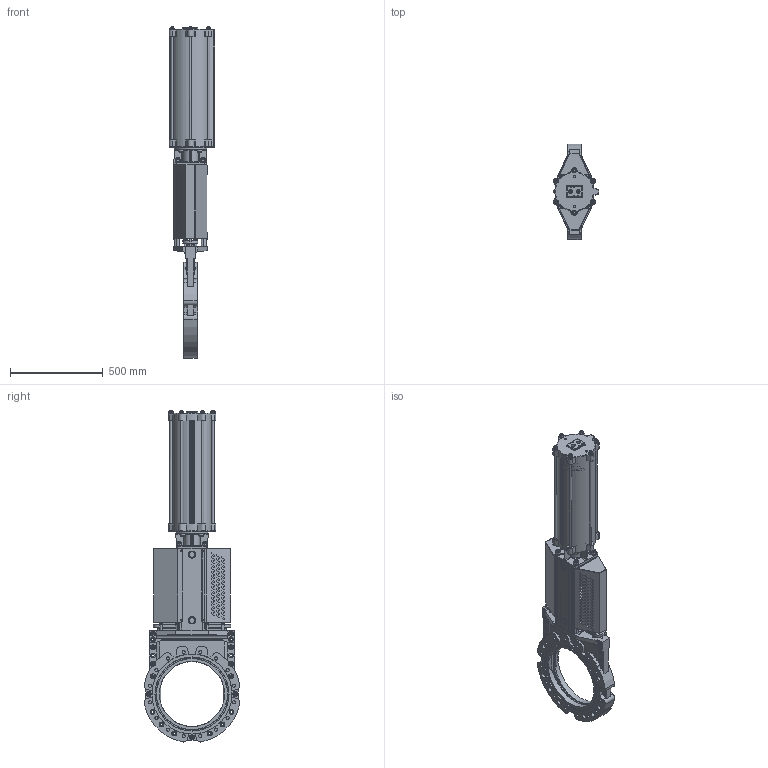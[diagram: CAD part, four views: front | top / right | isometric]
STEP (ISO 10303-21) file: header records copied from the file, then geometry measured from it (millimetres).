
FILE_DESCRIPTION(/* description */ (''),/* implementation_level */ '2;1');
FILE_NAME(/* name */ 'F:\Emir\3D-block special\WB\WB14\WB14-DN350-PN10-FRSC200-450.stp',/* time_stamp */ '2018-01-08T15:40:50+01:00',/* author */ ('emimus'),/* organization */ (''),/* preprocessor_version */ 'ST-DEVELOPER v16.5',/* originating_system */ 'Autodesk Inventor 2017',/* authorisation */ '');
FILE_SCHEMA (('CONFIG_CONTROL_DESIGN'));
Products named in the file (1): WB14-DN350-PN10-FRSC200-450_Shrinkwrap_1
Bounding box: 242.86 x 515.8 x 1785.4 mm (x, y, z)
Volume: 21876125.4 mm3; surface area: 4267420.8 mm2
Topology: 1 solids, 1 shells, 3393 faces, 8536 edges, 5324 vertices
Faces by surface type: plane 1322, cylinder 1038, bspline 311, torus 309, cone 269, sphere 144
Full cylindrical faces by diameter (mm): 3 x6, 3.5 x8, 3.6 x8, 4 x2, 4.5 x6, 4.917 x4, 6.647 x4, 7.5 x4, 8.376 x4, 9.5 x2, 10 x12, 10.106 x2, 12 x22, 13 x47, 13.835 x4, 16 x8, 17 x4, 17.294 x32, 18 x4, 18.631 x2, 24 x23, 25 x4, 26 x42, 28 x4, 30 x4, 33 x1, 36 x2, 38 x2, 40 x2, 40.1 x1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
Entity records: 106596 total; most frequent: CARTESIAN_POINT 27755, DIRECTION 16941, ORIENTED_EDGE 15714, EDGE_CURVE 7851, AXIS2_PLACEMENT_3D 6908, VERTEX_POINT 5123, EDGE_LOOP 4438, CIRCLE 3469
